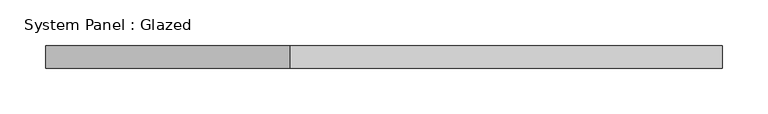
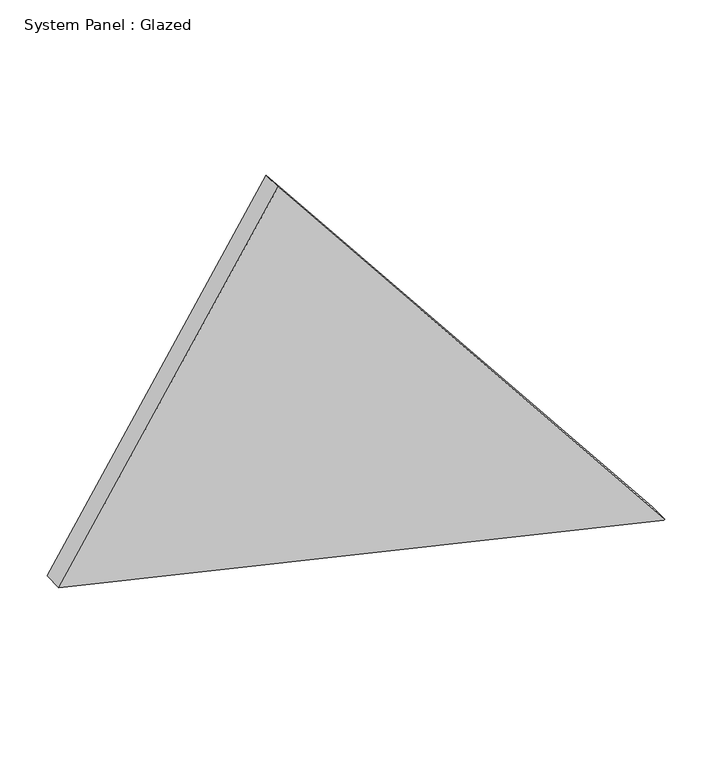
"""IFC4 building model written with IfcOpenShell, lengths in millimetres: plate geometry, System Panel : Glazed."""

from ifc_helpers import new_model, si_unit, frame, origin, place, context, project, spatial, polyline, outline, extrude, source, transform, mapped, element, save


def system_panel_glazed_6dcda1c2(model_context):
    return source(origin(), model_context, "Body", "SweptSolid", [
        extrude(outline(polyline([(0.0, 371.0450478), (1.416945, 371.9407581), (598.3886795, -102.984894), (172.9211356, -371.9407581), (0.0, 371.0450478)])), frame((0.0, -49.5, 0.0), z_axis=(0.0, 1.0, 0.0), x_axis=(0.0, 0.0, 1.0)), (0.0, 0.0, 1.0), 25.0),
    ])


if __name__ == "__main__":
    model = new_model("IFC4")
    model_context = context("Model", 3, world=origin())
    ifc_project = project(units=[si_unit("LENGTHUNIT", "METRE", prefix="MILLI")], contexts=[model_context])
    site = spatial("IfcSite", under=ifc_project)
    building = spatial("IfcBuilding", under=site)
    placement = place(None, origin())
    system_panel_glazed_shape = system_panel_glazed_6dcda1c2(model_context)
    element("IfcPlate", 1, ObjectType="System Panel : Glazed", at=placement, inside=building, context=model_context, shape_type="MappedRepresentation", body=[
        mapped(system_panel_glazed_shape, transform((0.0, 0.0, 0.0), x_axis=(1.0, 0.0, 0.0), y_axis=(0.0, 1.0, 0.0), z_axis=(0.0, 0.0, 1.0))),
    ])
    save(model, "model.ifc")
